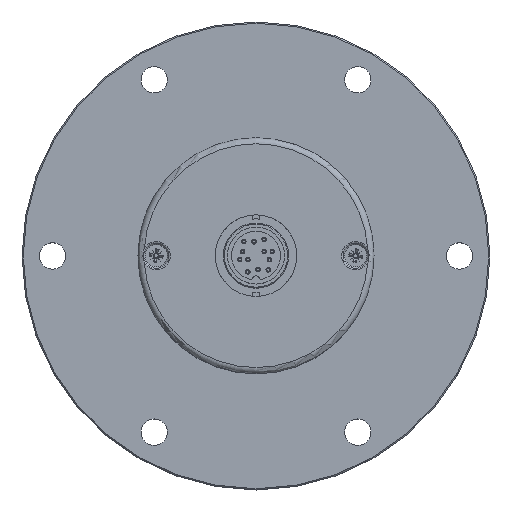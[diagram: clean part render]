
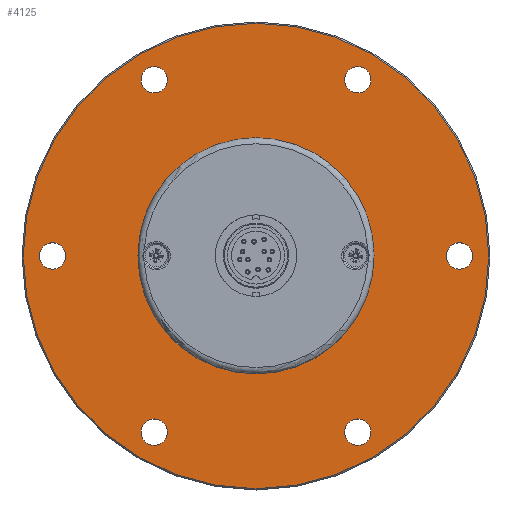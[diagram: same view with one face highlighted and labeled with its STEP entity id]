
A CAD part, top view. The second image highlights one B-rep face of the part: STEP entity #4125.
In plain terms, the highlighted planar face has unit normal (0, 0, 1).
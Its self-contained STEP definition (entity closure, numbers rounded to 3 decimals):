
#3997=CARTESIAN_POINT('',(57.2,0.,11.0));
#3998=VERTEX_POINT('',#3997);
#3999=CARTESIAN_POINT('',(0.0,0.0,11.0));
#4000=DIRECTION('',(0.0,0.0,-1.0));
#4001=DIRECTION('',(-1.0,0.0,0.0));
#4002=AXIS2_PLACEMENT_3D('',#3999,#4000,#4001);
#4003=CIRCLE('',#4002,57.2);
#4004=EDGE_CURVE('',#3998,#3998,#4003,.T.);
#4040=CARTESIAN_POINT('',(0.0,0.0,11.0));
#4041=DIRECTION('',(0.0,0.0,-1.0));
#4042=DIRECTION('',(-1.0,0.0,0.0));
#4043=AXIS2_PLACEMENT_3D('',#4040,#4041,#4042);
#4044=PLANE('',#4043);
#4045=ORIENTED_EDGE('',*,*,#4004,.F.);
#4046=EDGE_LOOP('',(#4045));
#4047=FACE_OUTER_BOUND('',#4046,.T.);
#4048=CARTESIAN_POINT('',(29.,0.,11.0));
#4049=VERTEX_POINT('',#4048);
#4050=CARTESIAN_POINT('',(0.0,0.0,11.0));
#4051=DIRECTION('',(0.0,0.0,1.0));
#4052=DIRECTION('',(-1.0,0.0,0.0));
#4053=AXIS2_PLACEMENT_3D('',#4050,#4051,#4052);
#4054=CIRCLE('',#4053,29.);
#4055=EDGE_CURVE('',#4049,#4049,#4054,.T.);
#4056=ORIENTED_EDGE('',*,*,#4055,.F.);
#4057=EDGE_LOOP('',(#4056));
#4058=FACE_BOUND('',#4057,.T.);
#4059=CARTESIAN_POINT('',(-21.75,43.301,11.0));
#4060=VERTEX_POINT('',#4059);
#4061=CARTESIAN_POINT('',(-25.,43.301,11.));
#4062=DIRECTION('',(0.0,0.0,-1.0));
#4063=DIRECTION('',(1.0,0.0,0.0));
#4064=AXIS2_PLACEMENT_3D('',#4061,#4062,#4063);
#4065=CIRCLE('',#4064,3.25);
#4066=EDGE_CURVE('',#4060,#4060,#4065,.T.);
#4067=ORIENTED_EDGE('',*,*,#4066,.T.);
#4068=EDGE_LOOP('',(#4067));
#4069=FACE_BOUND('',#4068,.T.);
#4070=CARTESIAN_POINT('',(-48.375,2.815,11.0));
#4071=VERTEX_POINT('',#4070);
#4072=CARTESIAN_POINT('',(-50.0,0.,11.));
#4073=DIRECTION('',(0.0,0.0,-1.0));
#4074=DIRECTION('',(0.5,0.866,0.0));
#4075=AXIS2_PLACEMENT_3D('',#4072,#4073,#4074);
#4076=CIRCLE('',#4075,3.25);
#4077=EDGE_CURVE('',#4071,#4071,#4076,.T.);
#4078=ORIENTED_EDGE('',*,*,#4077,.T.);
#4079=EDGE_LOOP('',(#4078));
#4080=FACE_BOUND('',#4079,.T.);
#4081=CARTESIAN_POINT('',(-26.625,-40.487,11.0));
#4082=VERTEX_POINT('',#4081);
#4083=CARTESIAN_POINT('',(-25.,-43.301,11.));
#4084=DIRECTION('',(0.0,0.0,-1.0));
#4085=DIRECTION('',(-0.5,0.866,0.0));
#4086=AXIS2_PLACEMENT_3D('',#4083,#4084,#4085);
#4087=CIRCLE('',#4086,3.25);
#4088=EDGE_CURVE('',#4082,#4082,#4087,.T.);
#4089=ORIENTED_EDGE('',*,*,#4088,.T.);
#4090=EDGE_LOOP('',(#4089));
#4091=FACE_BOUND('',#4090,.T.);
#4092=CARTESIAN_POINT('',(21.75,-43.301,11.0));
#4093=VERTEX_POINT('',#4092);
#4094=CARTESIAN_POINT('',(25.,-43.301,11.));
#4095=DIRECTION('',(0.0,0.0,-1.0));
#4096=DIRECTION('',(-1.0,0.0,0.0));
#4097=AXIS2_PLACEMENT_3D('',#4094,#4095,#4096);
#4098=CIRCLE('',#4097,3.25);
#4099=EDGE_CURVE('',#4093,#4093,#4098,.T.);
#4100=ORIENTED_EDGE('',*,*,#4099,.T.);
#4101=EDGE_LOOP('',(#4100));
#4102=FACE_BOUND('',#4101,.T.);
#4103=CARTESIAN_POINT('',(48.375,-2.815,11.0));
#4104=VERTEX_POINT('',#4103);
#4105=CARTESIAN_POINT('',(50.0,0.,11.));
#4106=DIRECTION('',(0.0,0.0,-1.0));
#4107=DIRECTION('',(-0.5,-0.866,0.0));
#4108=AXIS2_PLACEMENT_3D('',#4105,#4106,#4107);
#4109=CIRCLE('',#4108,3.25);
#4110=EDGE_CURVE('',#4104,#4104,#4109,.T.);
#4111=ORIENTED_EDGE('',*,*,#4110,.T.);
#4112=EDGE_LOOP('',(#4111));
#4113=FACE_BOUND('',#4112,.T.);
#4114=CARTESIAN_POINT('',(26.625,40.487,11.0));
#4115=VERTEX_POINT('',#4114);
#4116=CARTESIAN_POINT('',(25.,43.301,11.));
#4117=DIRECTION('',(0.0,0.0,-1.));
#4118=DIRECTION('',(0.5,-0.866,0.0));
#4119=AXIS2_PLACEMENT_3D('',#4116,#4117,#4118);
#4120=CIRCLE('',#4119,3.25);
#4121=EDGE_CURVE('',#4115,#4115,#4120,.T.);
#4122=ORIENTED_EDGE('',*,*,#4121,.T.);
#4123=EDGE_LOOP('',(#4122));
#4124=FACE_BOUND('',#4123,.T.);
#4125=ADVANCED_FACE('',(#4047,#4058,#4069,#4080,#4091,#4102,#4113,#4124),#4044,.F.);
